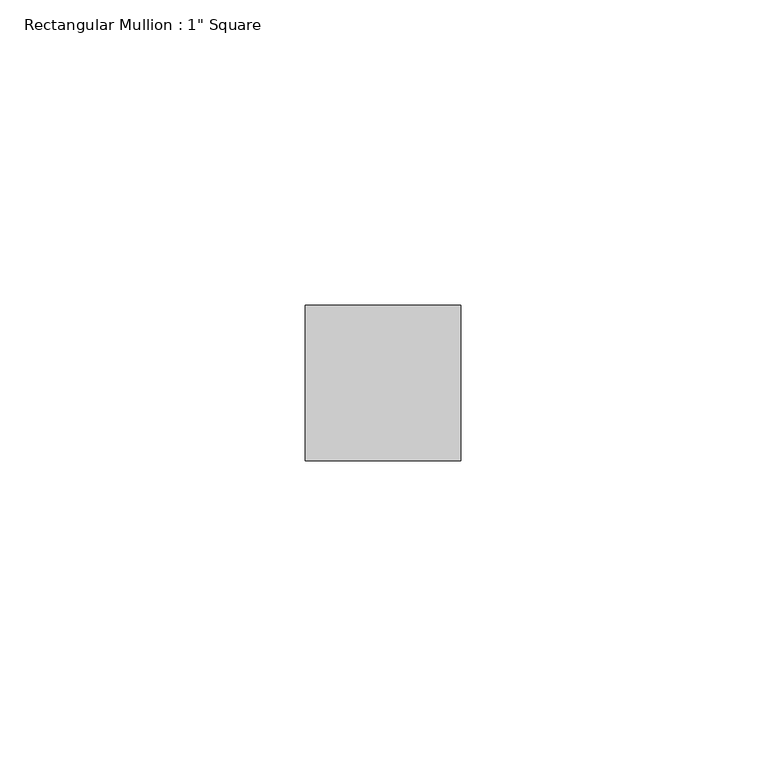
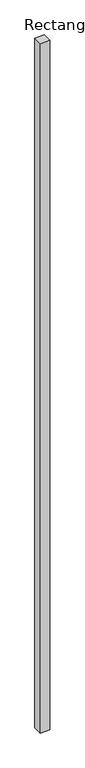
"""IFC4 building model written with IfcOpenShell, lengths in millimetres: member geometry."""

from ifc_helpers import new_model, si_unit, frame, origin, place, context, project, spatial, polyline, outline, extrude, source, transform, mapped, element, save


def member_775132e8(model_context):
    return source(origin(), model_context, "Body", "SweptSolid", [
        extrude(outline(polyline([(0.0, 12.7), (0.0, -12.7), (-25.4, -12.7), (-25.4, 12.7), (0.0, 12.7)])), frame((0.0, 0.0, -1948.5884591), z_axis=(0.0, 0.0, 1.0), x_axis=(1.0, 0.0, 0.0)), (0.0, 0.0, 1.0), 1948.5884591),
    ])


if __name__ == "__main__":
    model = new_model("IFC4")
    model_context = context("Model", 3, world=origin())
    ifc_project = project(units=[si_unit("LENGTHUNIT", "METRE", prefix="MILLI")], contexts=[model_context])
    site = spatial("IfcSite", under=ifc_project)
    building = spatial("IfcBuilding", under=site)
    placement = place(None, origin())
    member_shape = member_775132e8(model_context)
    element("IfcMember", 1, ObjectType="Rectangular Mullion : 1\" Square", at=placement, inside=building, context=model_context, shape_type="MappedRepresentation", body=[
        mapped(member_shape, transform((0.0, 0.0, 0.0), x_axis=(1.0, 0.0, 0.0), y_axis=(0.0, 1.0, 0.0), z_axis=(0.0, 0.0, 1.0))),
    ])
    save(model, "model.ifc")
